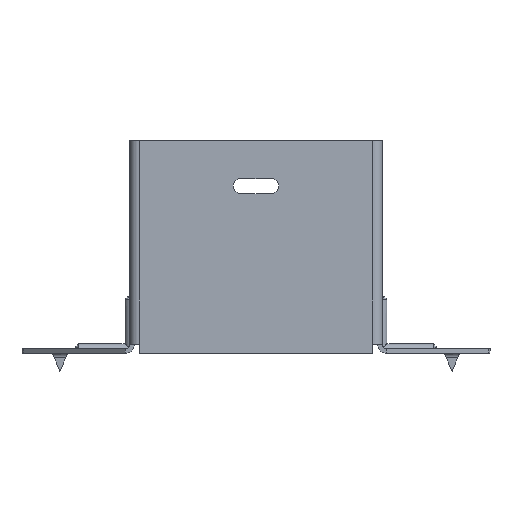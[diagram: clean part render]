
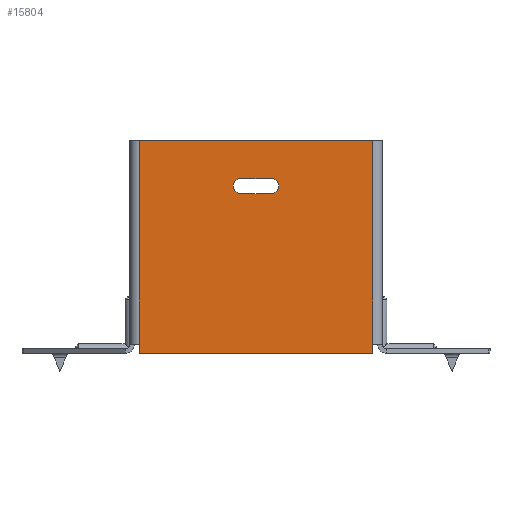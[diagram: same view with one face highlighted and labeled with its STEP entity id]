
A CAD part, front view. The second image highlights one B-rep face of the part: STEP entity #15804.
In plain terms, the highlighted planar face has unit normal (0, -1, 0).
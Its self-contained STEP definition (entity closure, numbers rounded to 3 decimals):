
#181 = CARTESIAN_POINT ( 'NONE',  ( 5., 0., -15. ) ) ;
#371 = DIRECTION ( 'NONE',  ( 0., 1., 0. ) ) ;
#838 = DIRECTION ( 'NONE',  ( 0., 0., 1. ) ) ;
#916 = DIRECTION ( 'NONE',  ( -1., 0., 0. ) ) ;
#1309 = CARTESIAN_POINT ( 'NONE',  ( 38.5, 0., -67. ) ) ;
#1418 = VERTEX_POINT ( 'NONE', #14704 ) ;
#1426 = ORIENTED_EDGE ( 'NONE', *, *, #1805, .T. ) ;
#1661 = EDGE_CURVE ( 'NONE', #7497, #8608, #8029, .T. ) ;
#1677 = DIRECTION ( 'NONE',  ( 0., 0., 1. ) ) ;
#1805 = EDGE_CURVE ( 'NONE', #6536, #7497, #13219, .T. ) ;
#2026 = CARTESIAN_POINT ( 'NONE',  ( -38.5, 0., 0. ) ) ;
#2518 = VECTOR ( 'NONE', #7636, 1000. ) ;
#2632 = AXIS2_PLACEMENT_3D ( 'NONE', #5242, #371, #1677 ) ;
#2692 = DIRECTION ( 'NONE',  ( 0., 1., 0. ) ) ;
#2818 = EDGE_CURVE ( 'NONE', #3517, #1418, #14516, .T. ) ;
#2933 = CARTESIAN_POINT ( 'NONE',  ( -40., 0., 0. ) ) ;
#3210 = VECTOR ( 'NONE', #5427, 1000. ) ;
#3257 = CARTESIAN_POINT ( 'NONE',  ( -38.5, 0., 0. ) ) ;
#3472 = LINE ( 'NONE', #12431, #10004 ) ;
#3517 = VERTEX_POINT ( 'NONE', #4784 ) ;
#3656 = CARTESIAN_POINT ( 'NONE',  ( -38.5, 0., 0. ) ) ;
#4215 = AXIS2_PLACEMENT_3D ( 'NONE', #181, #2692, #6234 ) ;
#4358 = VERTEX_POINT ( 'NONE', #14463 ) ;
#4537 = ORIENTED_EDGE ( 'NONE', *, *, #14442, .T. ) ;
#4700 = CARTESIAN_POINT ( 'NONE',  ( -5., 0., -17.5 ) ) ;
#4784 = CARTESIAN_POINT ( 'NONE',  ( -38.5, 0., -67. ) ) ;
#4858 = ORIENTED_EDGE ( 'NONE', *, *, #1661, .T. ) ;
#4885 = LINE ( 'NONE', #8052, #3210 ) ;
#5242 = CARTESIAN_POINT ( 'NONE',  ( 0., 0., 0. ) ) ;
#5354 = EDGE_CURVE ( 'NONE', #4358, #11184, #3472, .T. ) ;
#5423 = VECTOR ( 'NONE', #14598, 1000. ) ;
#5427 = DIRECTION ( 'NONE',  ( 1., 0., 0. ) ) ;
#5619 = VECTOR ( 'NONE', #14163, 1000. ) ;
#5729 = ORIENTED_EDGE ( 'NONE', *, *, #12832, .T. ) ;
#5789 = VERTEX_POINT ( 'NONE', #10792 ) ;
#6234 = DIRECTION ( 'NONE',  ( 0., 0., 1. ) ) ;
#6269 = VERTEX_POINT ( 'NONE', #2026 ) ;
#6297 = AXIS2_PLACEMENT_3D ( 'NONE', #13226, #10759, #14344 ) ;
#6477 = ORIENTED_EDGE ( 'NONE', *, *, #11068, .T. ) ;
#6536 = VERTEX_POINT ( 'NONE', #7537 ) ;
#7305 = VERTEX_POINT ( 'NONE', #10305 ) ;
#7347 = EDGE_CURVE ( 'NONE', #8608, #5789, #4885, .T. ) ;
#7497 = VERTEX_POINT ( 'NONE', #14276 ) ;
#7526 = DIRECTION ( 'NONE',  ( 0., 0., 1. ) ) ;
#7537 = CARTESIAN_POINT ( 'NONE',  ( 5., 0., -17.5 ) ) ;
#7636 = DIRECTION ( 'NONE',  ( 1., 0., 0. ) ) ;
#7792 = VECTOR ( 'NONE', #916, 1000. ) ;
#7840 = LINE ( 'NONE', #15573, #12843 ) ;
#8029 = CIRCLE ( 'NONE', #6297, 2.5 ) ;
#8052 = CARTESIAN_POINT ( 'NONE',  ( -5., 0., -12.5 ) ) ;
#8608 = VERTEX_POINT ( 'NONE', #10822 ) ;
#8938 = PLANE ( 'NONE',  #2632 ) ;
#9118 = LINE ( 'NONE', #3656, #5423 ) ;
#9726 = DIRECTION ( 'NONE',  ( -1., 0., 0. ) ) ;
#10004 = VECTOR ( 'NONE', #7526, 1000. ) ;
#10063 = ORIENTED_EDGE ( 'NONE', *, *, #13727, .F. ) ;
#10224 = LINE ( 'NONE', #2933, #2518 ) ;
#10305 = CARTESIAN_POINT ( 'NONE',  ( 38.5, 0., 0. ) ) ;
#10585 = EDGE_CURVE ( 'NONE', #6269, #7305, #10224, .T. ) ;
#10759 = DIRECTION ( 'NONE',  ( 0., 1., 0. ) ) ;
#10792 = CARTESIAN_POINT ( 'NONE',  ( 5., 0., -12.5 ) ) ;
#10822 = CARTESIAN_POINT ( 'NONE',  ( -5., 0., -12.5 ) ) ;
#10830 = FACE_OUTER_BOUND ( 'NONE', #11676, .T. ) ;
#11068 = EDGE_CURVE ( 'NONE', #5789, #6536, #13854, .T. ) ;
#11184 = VERTEX_POINT ( 'NONE', #1309 ) ;
#11321 = ORIENTED_EDGE ( 'NONE', *, *, #5354, .T. ) ;
#11445 = LINE ( 'NONE', #15643, #7792 ) ;
#11676 = EDGE_LOOP ( 'NONE', ( #4537, #12906, #10063, #11321, #5729, #13342 ) ) ;
#12431 = CARTESIAN_POINT ( 'NONE',  ( 38.5, 0., -70. ) ) ;
#12827 = EDGE_LOOP ( 'NONE', ( #1426, #4858, #15662, #6477 ) ) ;
#12832 = EDGE_CURVE ( 'NONE', #11184, #7305, #7840, .T. ) ;
#12843 = VECTOR ( 'NONE', #838, 1000. ) ;
#12906 = ORIENTED_EDGE ( 'NONE', *, *, #2818, .T. ) ;
#13219 = LINE ( 'NONE', #4700, #15122 ) ;
#13226 = CARTESIAN_POINT ( 'NONE',  ( -5., 0., -15. ) ) ;
#13342 = ORIENTED_EDGE ( 'NONE', *, *, #10585, .F. ) ;
#13500 = FACE_BOUND ( 'NONE', #12827, .T. ) ;
#13727 = EDGE_CURVE ( 'NONE', #4358, #1418, #11445, .T. ) ;
#13854 = CIRCLE ( 'NONE', #4215, 2.5 ) ;
#14163 = DIRECTION ( 'NONE',  ( 0., 0., -1. ) ) ;
#14276 = CARTESIAN_POINT ( 'NONE',  ( -5., 0., -17.5 ) ) ;
#14344 = DIRECTION ( 'NONE',  ( 0., 0., 1. ) ) ;
#14442 = EDGE_CURVE ( 'NONE', #6269, #3517, #9118, .T. ) ;
#14463 = CARTESIAN_POINT ( 'NONE',  ( 38.5, 0., -70. ) ) ;
#14516 = LINE ( 'NONE', #3257, #5619 ) ;
#14598 = DIRECTION ( 'NONE',  ( 0., 0., -1. ) ) ;
#14704 = CARTESIAN_POINT ( 'NONE',  ( -38.5, 0., -70. ) ) ;
#15122 = VECTOR ( 'NONE', #9726, 1000. ) ;
#15573 = CARTESIAN_POINT ( 'NONE',  ( 38.5, 0., -70. ) ) ;
#15643 = CARTESIAN_POINT ( 'NONE',  ( -40., 0., -70. ) ) ;
#15662 = ORIENTED_EDGE ( 'NONE', *, *, #7347, .T. ) ;
#15804 = ADVANCED_FACE ( 'NONE', ( #13500, #10830 ), #8938, .F. ) ;
